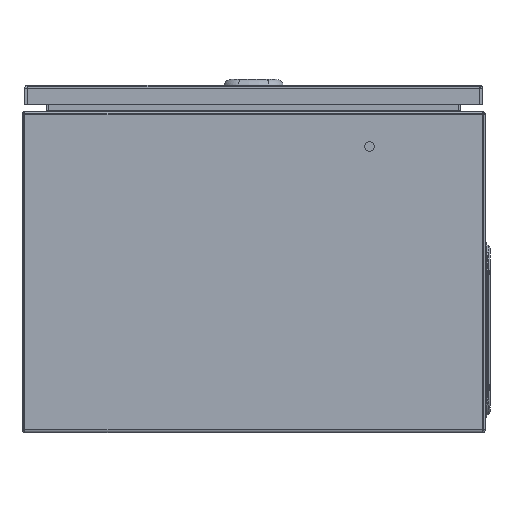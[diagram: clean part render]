
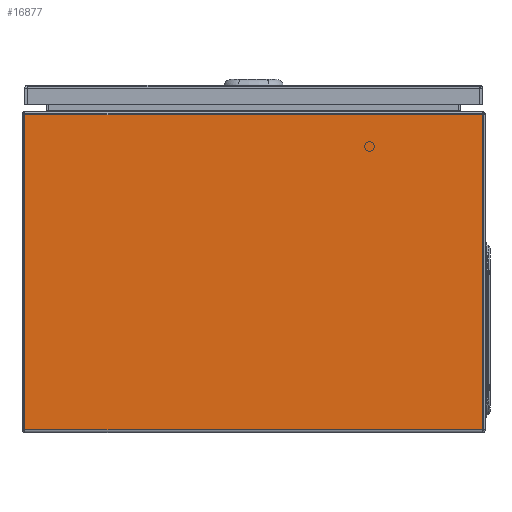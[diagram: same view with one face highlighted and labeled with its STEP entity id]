
A CAD part, left-side view. The second image highlights one B-rep face of the part: STEP entity #16877.
In plain terms, the highlighted planar face has unit normal (-1, 0, 0).
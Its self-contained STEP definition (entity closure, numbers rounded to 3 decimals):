
#561 = VERTEX_POINT ( 'NONE', #16368 ) ;
#581 = CARTESIAN_POINT ( 'NONE',  ( -300., 197.5, 1.5 ) ) ;
#937 = VECTOR ( 'NONE', #22206, 1000. ) ;
#1443 = FACE_OUTER_BOUND ( 'NONE', #19864, .T. ) ;
#1545 = EDGE_CURVE ( 'NONE', #6959, #2687, #8970, .T. ) ;
#2687 = VERTEX_POINT ( 'NONE', #21675 ) ;
#3226 = CARTESIAN_POINT ( 'NONE',  ( -300., -200., 2.35 ) ) ;
#5015 = EDGE_CURVE ( 'NONE', #22301, #561, #10140, .T. ) ;
#5567 = VECTOR ( 'NONE', #22252, 1000. ) ;
#5693 = EDGE_CURVE ( 'NONE', #22301, #6959, #13927, .T. ) ;
#6316 = PLANE ( 'NONE',  #18780 ) ;
#6959 = VERTEX_POINT ( 'NONE', #11197 ) ;
#7124 = EDGE_CURVE ( 'NONE', #2687, #561, #16689, .T. ) ;
#8355 = DIRECTION ( 'NONE',  ( 0., 0., -1. ) ) ;
#8431 = ORIENTED_EDGE ( 'NONE', *, *, #5015, .F. ) ;
#8552 = VECTOR ( 'NONE', #17634, 1000. ) ;
#8970 = LINE ( 'NONE', #3226, #9929 ) ;
#9567 = CARTESIAN_POINT ( 'NONE',  ( -300., 197.5, 274.5 ) ) ;
#9929 = VECTOR ( 'NONE', #12246, 1000. ) ;
#10140 = LINE ( 'NONE', #20481, #937 ) ;
#11197 = CARTESIAN_POINT ( 'NONE',  ( -300., 197.5, 2.35 ) ) ;
#11549 = ORIENTED_EDGE ( 'NONE', *, *, #1545, .T. ) ;
#12246 = DIRECTION ( 'NONE',  ( 0., -1., 0. ) ) ;
#13510 = ORIENTED_EDGE ( 'NONE', *, *, #5693, .T. ) ;
#13578 = CARTESIAN_POINT ( 'NONE',  ( -300., -200., 1.5 ) ) ;
#13927 = LINE ( 'NONE', #581, #8552 ) ;
#15232 = CARTESIAN_POINT ( 'NONE',  ( -300., -197.5, 1.5 ) ) ;
#15769 = ORIENTED_EDGE ( 'NONE', *, *, #7124, .T. ) ;
#16368 = CARTESIAN_POINT ( 'NONE',  ( -300., -197.5, 274.5 ) ) ;
#16689 = LINE ( 'NONE', #15232, #5567 ) ;
#16877 = ADVANCED_FACE ( 'NONE', ( #1443 ), #6316, .F. ) ;
#17634 = DIRECTION ( 'NONE',  ( 0., 0., -1. ) ) ;
#18780 = AXIS2_PLACEMENT_3D ( 'NONE', #13578, #22134, #8355 ) ;
#19864 = EDGE_LOOP ( 'NONE', ( #13510, #11549, #15769, #8431 ) ) ;
#20481 = CARTESIAN_POINT ( 'NONE',  ( -300., 200., 274.5 ) ) ;
#21675 = CARTESIAN_POINT ( 'NONE',  ( -300., -197.5, 2.35 ) ) ;
#22134 = DIRECTION ( 'NONE',  ( 1., 0., 0. ) ) ;
#22206 = DIRECTION ( 'NONE',  ( 0., -1., 0. ) ) ;
#22252 = DIRECTION ( 'NONE',  ( 0., 0., 1. ) ) ;
#22301 = VERTEX_POINT ( 'NONE', #9567 ) ;
